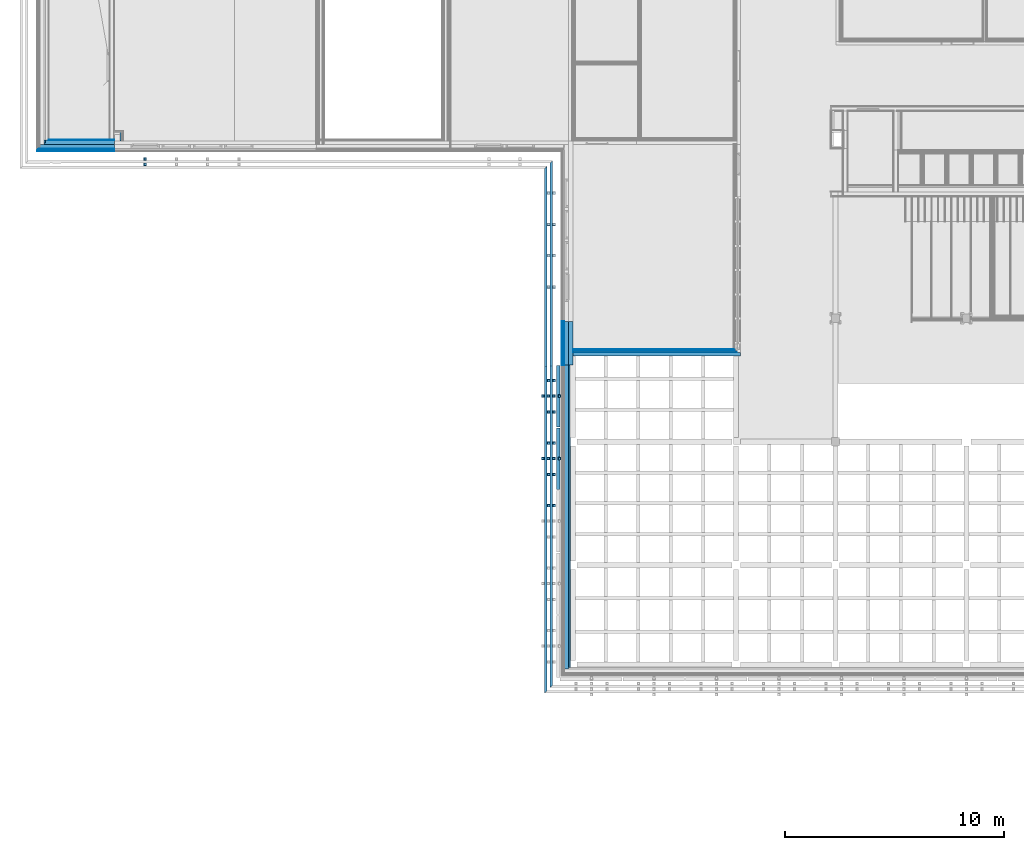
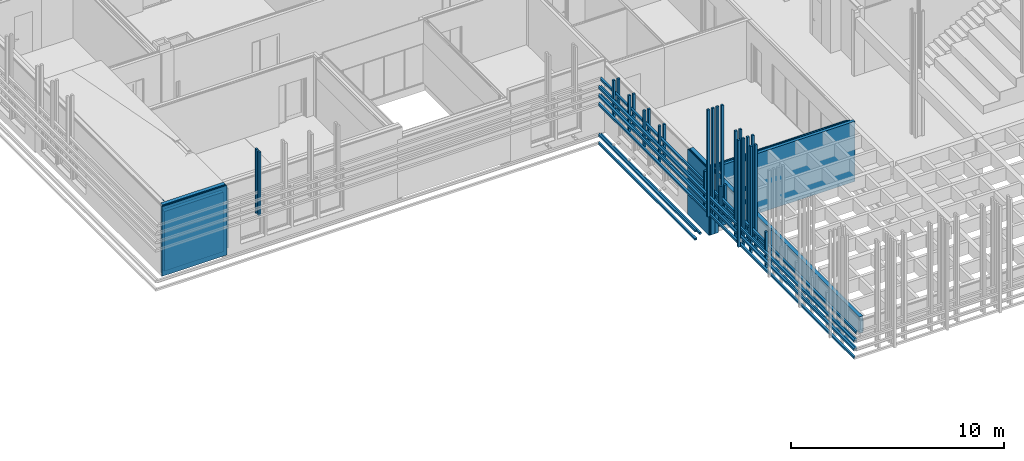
# One storey, part 79 of 139: 23 building element parts, 19 discrete accessories, 5 elements without a shape of their own.
"""IFC2X3 building model written with IfcOpenShell, lengths in millimetres."""

from ifc_helpers import new_model, entity, si_unit, converted_unit, derived_unit, money_unit, direction, frame, origin_with_axes, place, context, subcontext, project, spatial, faceted_brep, material, material_list, type_object, element, aggregate, save


model = new_model("IFC2X3")

# Units and contexts
model_context = context("Model", 3, precision=0.01, world=origin_with_axes(), true_north=direction((0.0, 1.0)))
body_context = subcontext(model_context, "Body", "Model", "MODEL_VIEW")
ifc_project = project(units=[si_unit("LENGTHUNIT", "METRE", prefix="MILLI"), si_unit("AREAUNIT", "SQUARE_METRE"), si_unit("VOLUMEUNIT", "CUBIC_METRE"), converted_unit("PLANEANGLEUNIT", "DEGREE", entity("IfcPlaneAngleMeasure", 0.0174532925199), si_unit("PLANEANGLEUNIT", "RADIAN"), dimensions=[0, 0, 0, 0, 0, 0, 0]), money_unit("EUR"), converted_unit("TIMEUNIT", "Year", entity("IfcTimeMeasure", 31556926.0), si_unit("TIMEUNIT", "SECOND"), dimensions=[0, 0, 1, 0, 0, 0, 0]), si_unit("MASSUNIT", "GRAM", prefix="KILO"), si_unit("THERMODYNAMICTEMPERATUREUNIT", "DEGREE_CELSIUS"), si_unit("LUMINOUSINTENSITYUNIT", "LUMEN"), si_unit("ENERGYUNIT", "JOULE", prefix="MEGA"), derived_unit("THERMALCONDUCTANCEUNIT", [(si_unit("POWERUNIT", "WATT"), 1), (si_unit("LENGTHUNIT", "METRE"), -1), (si_unit("THERMODYNAMICTEMPERATUREUNIT", "KELVIN"), -1)]), derived_unit("SPECIFICHEATCAPACITYUNIT", [(si_unit("ENERGYUNIT", "JOULE"), 1), (si_unit("MASSUNIT", "GRAM", prefix="KILO"), -1), (si_unit("THERMODYNAMICTEMPERATUREUNIT", "KELVIN"), -1)]), derived_unit("MASSDENSITYUNIT", [(si_unit("MASSUNIT", "GRAM", prefix="KILO"), 1), (si_unit("VOLUMEUNIT", "CUBIC_METRE"), -1)])], contexts=[model_context])

# Site, building, storey
site_placement = place(None, origin_with_axes())
site = spatial("IfcSite", under=ifc_project, at=site_placement, Name="Kolde pst 67a", CompositionType="ELEMENT")
building_placement = place(site_placement, origin_with_axes())
building = spatial("IfcBuilding", under=site, at=building_placement, Name="Riigigümnaasium", CompositionType="ELEMENT")
storey_placement = place(building_placement, frame((0.0, 0.0, 4600.0), z_axis=(0.0, 0.0, 1.0), x_axis=(1.0, 0.0, 0.0)))
storey = spatial("IfcBuildingStorey", under=building, at=storey_placement, Name="2. korrus", CompositionType="ELEMENT", Elevation=4600.0)

# Discrete accessories
ifc_material_1 = material(Name="_VÄLISVIIMISTLUS - sõrmjätkatud puitprussid 120x115mm, liitekohad vähemärgatavad, Platowood sõrmjätkatud kuusk või samaväärne; eeltöödeldud tuletõkkevõõbaga, tuletundlikkus B-s1, d0, Woodsafe Exterior WFX™ või samaväärne; kinnitused vastavalt EK osale")
ifc_material_list_1 = material_list([ifc_material_1, ifc_material_1, ifc_material_1, ifc_material_1])
discrete_accessory_type_1 = type_object("IfcDiscreteAccessoryType", Name="120 4-ne vertikaalne 870 x 115")
discrete_accessory_1_placement = place(storey_placement, frame((23688.0028833, 33673.0018504, 2150.0), z_axis=(0.0, 0.0, 1.0), x_axis=(0.999999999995, 3.13999128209e-06, 0.0)))
element("IfcDiscreteAccessory", 1, at=discrete_accessory_1_placement, inside=storey, type_object=discrete_accessory_type_1, material=ifc_material_list_1, Name="Päikesevarjestus", context=body_context, shape_type="Brep", body=[
    faceted_brep([(-47.4889259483, 45.0, 0.0), (-47.4889259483, 45.0, 519.999999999), (-47.4889259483, 45.0, 669.999999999), (-133.0, 45.0, 669.999999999), (-133.0, 45.0, 6130.0), (-13.0, 45.0, 6130.0), (-13.0, 45.0, 0.0), (-47.4892870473, -70.0, 519.999999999), (-47.4892870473, -70.0, 0.0), (-47.4892870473, -70.0, 669.999999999), (-133.0, -70.0, 669.999999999), (-133.0, -70.0, 6130.0), (-13.0, -70.0, 6130.0), (-13.0, -70.0, 0.0)], [[[0, 1, 2, 3, 4, 5, 6]], [[7, 1, 0, 8]], [[1, 7, 9, 2]], [[10, 3, 2, 9]], [[4, 3, 10, 11]], [[5, 4, 11, 12]], [[5, 12, 13, 6]], [[8, 0, 6, 13]], [[7, 8, 13, 12, 11, 10, 9]]]),
    faceted_brep([(-383.0, -70.0, 0.0), (-263.0, -70.0, 0.0), (-263.0, -70.0, 6130.0), (-383.0, -70.0, 6130.0), (-383.0, 45.0, 0.0), (-263.0, 45.0, 0.0), (-263.0, 45.0, 6130.0), (-383.0, 45.0, 6130.0)], [[[0, 1, 2, 3]], [[0, 4, 5, 1]], [[1, 5, 6, 2]], [[3, 2, 6, 7]], [[4, 0, 3, 7]], [[5, 4, 7, 6]]]),
    faceted_brep([(-633.0, -70.0, 0.0), (-513.0, -70.0, 0.0), (-513.0, -70.0, 6130.0), (-633.0, -70.0, 6130.0), (-633.0, 45.0, 0.0), (-513.0, 45.0, 0.0), (-513.0, 45.0, 6130.0), (-633.0, 45.0, 6130.0)], [[[0, 1, 2, 3]], [[0, 4, 5, 1]], [[1, 5, 6, 2]], [[3, 2, 6, 7]], [[4, 0, 3, 7]], [[5, 4, 7, 6]]]),
    faceted_brep([(-883.0, -70.0, 0.0), (-763.0, -70.0, 0.0), (-763.0, -70.0, 6130.0), (-883.0, -70.0, 6130.0), (-883.0, 45.0, 0.0), (-763.0, 45.0, 0.0), (-763.0, 45.0, 6130.0), (-883.0, 45.0, 6130.0)], [[[0, 1, 2, 3]], [[0, 4, 5, 1]], [[1, 5, 6, 2]], [[3, 2, 6, 7]], [[4, 0, 3, 7]], [[5, 4, 7, 6]]]),
])
discrete_accessory_2_placement = place(storey_placement, frame((23688.0028833, 36533.0022901, 2150.0), z_axis=(0.0, 0.0, 1.0), x_axis=(0.999999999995, 3.13999128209e-06, 0.0)))
element("IfcDiscreteAccessory", 2, at=discrete_accessory_2_placement, inside=storey, type_object=discrete_accessory_type_1, material=ifc_material_list_1, Name="Päikesevarjestus", context=body_context, shape_type="Brep", body=[
    faceted_brep([(-47.8588262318, 45.0, 0.0), (-47.8588262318, 45.0, 519.999999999), (-47.8588262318, 45.0, 669.999999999), (-133.0, 45.0, 669.999999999), (-133.0, 45.0, 6130.0), (-13.0, 45.0, 6130.0), (-13.0, 45.0, 0.0), (-47.8591873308, -70.0, 519.999999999), (-47.8591873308, -70.0, 0.0), (-47.8591873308, -70.0, 669.999999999), (-133.0, -70.0, 669.999999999), (-133.0, -70.0, 6130.0), (-13.0, -70.0, 6130.0), (-13.0, -70.0, 0.0)], [[[0, 1, 2, 3, 4, 5, 6]], [[7, 1, 0, 8]], [[1, 7, 9, 2]], [[10, 3, 2, 9]], [[4, 3, 10, 11]], [[5, 4, 11, 12]], [[5, 12, 13, 6]], [[8, 0, 6, 13]], [[7, 8, 13, 12, 11, 10, 9]]]),
    faceted_brep([(-383.0, -70.0, 0.0), (-263.0, -70.0, 0.0), (-263.0, -70.0, 6130.0), (-383.0, -70.0, 6130.0), (-383.0, 45.0, 0.0), (-263.0, 45.0, 0.0), (-263.0, 45.0, 6130.0), (-383.0, 45.0, 6130.0)], [[[0, 1, 2, 3]], [[0, 4, 5, 1]], [[1, 5, 6, 2]], [[3, 2, 6, 7]], [[4, 0, 3, 7]], [[5, 4, 7, 6]]]),
    faceted_brep([(-633.0, -70.0, 0.0), (-513.0, -70.0, 0.0), (-513.0, -70.0, 6130.0), (-633.0, -70.0, 6130.0), (-633.0, 45.0, 0.0), (-513.0, 45.0, 0.0), (-513.0, 45.0, 6130.0), (-633.0, 45.0, 6130.0)], [[[0, 1, 2, 3]], [[0, 4, 5, 1]], [[1, 5, 6, 2]], [[3, 2, 6, 7]], [[4, 0, 3, 7]], [[5, 4, 7, 6]]]),
    faceted_brep([(-883.0, -70.0, 0.0), (-763.0, -70.0, 0.0), (-763.0, -70.0, 6130.0), (-883.0, -70.0, 6130.0), (-883.0, 45.0, 0.0), (-763.0, 45.0, 0.0), (-763.0, 45.0, 6130.0), (-883.0, 45.0, 6130.0)], [[[0, 1, 2, 3]], [[0, 4, 5, 1]], [[1, 5, 6, 2]], [[3, 2, 6, 7]], [[4, 0, 3, 7]], [[5, 4, 7, 6]]]),
])
ifc_material_list_2 = material_list([ifc_material_1, ifc_material_1])
discrete_accessory_type_2 = type_object("IfcDiscreteAccessoryType", Name="1+paiksekaitse 4 tk nihkes 2 370 x 355")
for number, where, z_axis, x_axis in (
    (3, (23675.0058924, 47681.0480444, 2630.0), (0.0, 0.0, 1.0), (-1.0, 0.0, 0.0)),
    (4, (23675.0058924, 47681.0480444, 3110.0), (0.0, 0.0, 1.0), (-1.0, 0.0, 0.0)),
):
    element("IfcDiscreteAccessory", number, at=place(storey_placement, frame(where, z_axis=z_axis, x_axis=x_axis)), inside=storey, type_object=discrete_accessory_type_2, material=ifc_material_list_2, Name="Päikesevarjestus", context=body_context, shape_type="Brep", body=[
        faceted_brep([(375.0, 24381.0480717, 347.001360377), (375.0, 375.114637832, 347.001360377), (495.0, 495.151321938, 357.5), (495.0, 24501.0480717, 357.5), (375.0, 24381.0480717, 242.5), (375.0, 375.114637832, 242.5), (495.0, 495.151321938, 242.5), (495.0, 24501.0480717, 242.5)], [[[0, 1, 2, 3]], [[4, 5, 1, 0]], [[5, 6, 2, 1]], [[3, 2, 6, 7]], [[4, 0, 3, 7]], [[7, 6, 5, 4]]]),
        faceted_brep([(625.0, 24631.0480717, 107.001360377), (625.0, 625.191063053, 107.001360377), (745.0, 745.227747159, 117.5), (745.0, 24751.0480717, 117.5), (625.0, 24631.0480717, 2.5), (625.0, 625.191063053, 2.5), (745.0, 745.227747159, 2.5), (745.0, 24751.0480717, 2.5)], [[[0, 1, 2, 3]], [[4, 5, 1, 0]], [[5, 6, 2, 1]], [[3, 2, 6, 7]], [[4, 0, 3, 7]], [[7, 6, 5, 4]]]),
    ])
discrete_accessory_3_placement = place(storey_placement, frame((23675.0058924, 47681.0480444, -100.0), z_axis=(0.0, 0.0, 1.0), x_axis=(-0.999999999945, -1.04675018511e-05, 0.0)))
element("IfcDiscreteAccessory", 5, at=discrete_accessory_3_placement, inside=storey, type_object=discrete_accessory_type_2, material=ifc_material_list_2, Name="Päikesevarjestus", context=body_context, shape_type="Brep", body=[
    faceted_brep([(375.0, 9788.05164257, 347.001360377), (375.0, 375.110711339, 347.001360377), (495.0, 495.146138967, 357.5), (495.0, 9788.05164257, 357.5), (375.0, 9788.05164257, 242.5), (375.0, 375.110711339, 242.5), (495.0, 495.146138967, 242.5), (495.0, 9788.05164257, 242.5)], [[[0, 1, 2, 3]], [[4, 5, 1, 0]], [[5, 6, 2, 1]], [[3, 2, 6, 7]], [[4, 0, 3, 7]], [[7, 6, 5, 4]]]),
    faceted_brep([(625.0, 9788.05164257, 107.001360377), (625.0, 625.184518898, 107.001360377), (745.0, 745.219946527, 117.5), (745.0, 9788.05164257, 117.5), (625.0, 9788.05164257, 2.5), (625.0, 625.184518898, 2.5), (745.0, 745.219946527, 2.5), (745.0, 9788.05164257, 2.5)], [[[0, 1, 2, 3]], [[4, 5, 1, 0]], [[5, 6, 2, 1]], [[3, 2, 6, 7]], [[4, 0, 3, 7]], [[7, 6, 5, 4]]]),
])
discrete_accessory_4_placement = place(storey_placement, frame((23675.0058924, 47681.0480444, 2150.0), z_axis=(0.0, 0.0, 1.0), x_axis=(-1.0, 0.0, 0.0)))
element("IfcDiscreteAccessory", 6, at=discrete_accessory_4_placement, inside=storey, type_object=discrete_accessory_type_2, material=ifc_material_list_2, Name="Päikesevarjestus", context=body_context, shape_type="Brep", body=[
    faceted_brep([(375.0, 24381.0480717, 347.001360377), (375.0, 375.114637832, 347.001360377), (495.0, 495.151321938, 357.5), (495.0, 24501.0480717, 357.5), (375.0, 24381.0480717, 242.5), (375.0, 375.114637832, 242.5), (495.0, 495.151321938, 242.5), (495.0, 24501.0480717, 242.5)], [[[0, 1, 2, 3]], [[4, 5, 1, 0]], [[5, 6, 2, 1]], [[3, 2, 6, 7]], [[4, 0, 3, 7]], [[7, 6, 5, 4]]]),
    faceted_brep([(625.0, 24631.0480717, 107.001360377), (625.0, 625.191063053, 107.001360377), (745.0, 745.227747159, 117.5), (745.0, 24751.0480717, 117.5), (625.0, 24631.0480717, 2.5), (625.0, 625.191063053, 2.5), (745.0, 745.227747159, 2.5), (745.0, 24751.0480717, 2.5)], [[[0, 1, 2, 3]], [[4, 5, 1, 0]], [[5, 6, 2, 1]], [[3, 2, 6, 7]], [[4, 0, 3, 7]], [[7, 6, 5, 4]]]),
])
discrete_accessory_type_3 = type_object("IfcDiscreteAccessoryType", Name="1+paiksekaitse 3 370 x 115")
discrete_accessory_5_placement = place(storey_placement, frame((4714.9643617, 46713.6768307, 2150.0), z_axis=(0.0, 0.0, 1.0), x_axis=(0.0, 1.0, 0.0)))
element("IfcDiscreteAccessory", 7, at=discrete_accessory_5_placement, inside=storey, type_object=discrete_accessory_type_3, material=ifc_material_list_2, Name="Päikesevarjestus", context=body_context, shape_type="Brep", body=[
    faceted_brep([(467.0, 117.5, 0.0), (347.0, 117.5, 0.0), (347.0, 117.5, 3670.0), (467.0, 117.5, 3670.0), (467.0, 2.5, 0.0), (347.0, 2.5, 0.0), (347.0, 2.5, 3670.0), (467.0, 2.5, 3670.0)], [[[0, 1, 2, 3]], [[0, 4, 5, 1]], [[1, 5, 6, 2]], [[3, 2, 6, 7]], [[4, 0, 3, 7]], [[5, 4, 7, 6]]]),
    faceted_brep([(717.0, 117.5, 0.0), (597.0, 117.5, 0.0), (597.0, 117.5, 3670.0), (717.0, 117.5, 3670.0), (717.0, 2.5, 0.0), (597.0, 2.5, 0.0), (597.0, 2.5, 3670.0), (717.0, 2.5, 3670.0)], [[[0, 1, 2, 3]], [[0, 4, 5, 1]], [[1, 5, 6, 2]], [[3, 2, 6, 7]], [[4, 0, 3, 7]], [[5, 4, 7, 6]]]),
])
for number, where, z_axis, x_axis in (
    (8, (22708.1079799, 44325.0016786, 2150.0), (0.0, 0.0, 1.0), (1.0, 0.0, 0.0)),
    (9, (22708.1079799, 42895.2789391, 2150.0), (0.0, 0.0, 1.0), (1.0, 0.0, 0.0)),
    (10, (22708.1079799, 41465.0016786, 2150.0), (0.0, 0.0, 1.0), (1.0, 0.0, 0.0)),
    (11, (22708.1079799, 45755.2789391, 2150.0), (0.0, 0.0, 1.0), (1.0, 0.0, 0.0)),
):
    element("IfcDiscreteAccessory", number, at=place(storey_placement, frame(where, z_axis=z_axis, x_axis=x_axis)), inside=storey, type_object=discrete_accessory_type_3, material=ifc_material_list_2, Name="Päikesevarjestus", context=body_context, shape_type="Brep", body=[
        faceted_brep([(467.0, 117.5, 0.0), (347.0, 117.5, 0.0), (347.0, 117.5, 2090.0), (467.0, 117.5, 2090.0), (467.0, 2.5, 0.0), (347.0, 2.5, 0.0), (347.0, 2.5, 2090.0), (467.0, 2.5, 2090.0)], [[[0, 1, 2, 3]], [[0, 4, 5, 1]], [[1, 5, 6, 2]], [[3, 2, 6, 7]], [[4, 0, 3, 7]], [[5, 4, 7, 6]]]),
        faceted_brep([(717.0, 117.5, 0.0), (597.0, 117.5, 0.0), (597.0, 117.5, 2090.0), (717.0, 117.5, 2090.0), (717.0, 2.5, 0.0), (597.0, 2.5, 0.0), (597.0, 2.5, 2090.0), (717.0, 2.5, 2090.0)], [[[0, 1, 2, 3]], [[0, 4, 5, 1]], [[1, 5, 6, 2]], [[3, 2, 6, 7]], [[4, 0, 3, 7]], [[5, 4, 7, 6]]]),
    ])
for number, where, z_axis, x_axis in (
    (12, (22708.1079799, 34315.498544, 2150.0), (0.0, 0.0, 1.0), (1.0, 0.0, 0.0)),
    (13, (22708.1079799, 32885.498544, 2150.0), (0.0, 0.0, 1.0), (1.0, 0.0, 0.0)),
):
    element("IfcDiscreteAccessory", number, at=place(storey_placement, frame(where, z_axis=z_axis, x_axis=x_axis)), inside=storey, type_object=discrete_accessory_type_3, material=ifc_material_list_2, Name="Päikesevarjestus", context=body_context, shape_type="Brep", body=[
        faceted_brep([(467.0, 117.5, 0.0), (347.0, 117.5, 0.0), (347.0, 117.5, 6130.0), (467.0, 117.5, 6130.0), (467.0, 2.5, 0.0), (347.0, 2.5, 0.0), (347.0, 2.5, 6130.0), (467.0, 2.5, 6130.0)], [[[0, 1, 2, 3]], [[0, 4, 5, 1]], [[1, 5, 6, 2]], [[3, 2, 6, 7]], [[4, 0, 3, 7]], [[5, 4, 7, 6]]]),
        faceted_brep([(717.0, 117.5, 0.0), (597.0, 117.5, 0.0), (597.0, 117.5, 6130.0), (717.0, 117.5, 6130.0), (717.0, 2.5, 0.0), (597.0, 2.5, 0.0), (597.0, 2.5, 6130.0), (717.0, 2.5, 6130.0)], [[[0, 1, 2, 3]], [[0, 4, 5, 1]], [[1, 5, 6, 2]], [[3, 2, 6, 7]], [[4, 0, 3, 7]], [[5, 4, 7, 6]]]),
    ])
for number, where, z_axis, x_axis in (
    (14, (22708.1079799, 35747.498544, 2150.0), (0.0, 0.0, 1.0), (1.0, 0.0, 0.0)),
    (15, (22708.1079799, 37177.498544, 2150.0), (0.0, 0.0, 1.0), (1.0, 0.0, 0.0)),
    (16, (22708.1079799, 31455.498544, 2150.0), (0.0, 0.0, 1.0), (1.0, 0.0, 0.0)),
):
    element("IfcDiscreteAccessory", number, at=place(storey_placement, frame(where, z_axis=z_axis, x_axis=x_axis)), inside=storey, type_object=discrete_accessory_type_3, material=ifc_material_list_2, Name="Päikesevarjestus", context=body_context, shape_type="Brep", body=[
        faceted_brep([(467.0, 117.5, 0.0), (347.0, 117.5, 0.0), (347.0, 117.5, 2090.0), (467.0, 117.5, 2090.0), (467.0, 2.5, 0.0), (347.0, 2.5, 0.0), (347.0, 2.5, 2090.0), (467.0, 2.5, 2090.0)], [[[0, 1, 2, 3]], [[0, 4, 5, 1]], [[1, 5, 6, 2]], [[3, 2, 6, 7]], [[4, 0, 3, 7]], [[5, 4, 7, 6]]]),
        faceted_brep([(717.0, 117.5, 0.0), (597.0, 117.5, 0.0), (597.0, 117.5, 2090.0), (717.0, 117.5, 2090.0), (717.0, 2.5, 0.0), (597.0, 2.5, 0.0), (597.0, 2.5, 2090.0), (717.0, 2.5, 2090.0)], [[[0, 1, 2, 3]], [[0, 4, 5, 1]], [[1, 5, 6, 2]], [[3, 2, 6, 7]], [[4, 0, 3, 7]], [[5, 4, 7, 6]]]),
    ])
discrete_accessory_type_4 = type_object("IfcDiscreteAccessoryType", Name="1+paiksekaitse 4 tk nihkes 1 120 x 115")
discrete_accessory_6_placement = place(storey_placement, frame((23675.0058924, 47681.0479235, 380.0), z_axis=(0.0, 0.0, 1.0), x_axis=(-1.0, 0.0, 0.0)))
element("IfcDiscreteAccessory", 17, at=discrete_accessory_6_placement, inside=storey, type_object=discrete_accessory_type_4, material=ifc_material_1, Name="Päikesevarjestus", context=body_context, shape_type="Brep", body=[
    faceted_brep([(745.0, 9803.5463432, 117.5), (625.0, 9803.5463432, 107.001360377), (625.0, 625.190993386, 107.001360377), (745.0, 745.227664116, 117.5), (745.0, 9803.5463432, 2.5), (625.0, 9803.5463432, 2.5), (625.0, 625.190993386, 2.5), (745.0, 745.227664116, 2.5)], [[[0, 1, 2, 3]], [[4, 5, 1, 0]], [[1, 5, 6, 2]], [[2, 6, 7, 3]], [[4, 0, 3, 7]], [[5, 4, 7, 6]]]),
])
ifc_material_2 = material(Name="_METALL - tsink")
discrete_accessory_type_5 = type_object("IfcDiscreteAccessoryType", Name="_METALL - tsink 155 x 150")
discrete_accessory_7_placement = place(storey_placement, frame((23563.0138161, 32252.9989187, 2745.0), z_axis=(0.0, 0.0, 1.0), x_axis=(1.0, 0.0, 0.0)))
element("IfcDiscreteAccessory", 18, at=discrete_accessory_7_placement, inside=storey, type_object=discrete_accessory_type_5, material=ifc_material_2, Name="Kardinvarjestus", context=body_context, shape_type="Brep", body=[
    faceted_brep([(77.5, 0.0, 75.0), (77.5, 2814.98529301, 75.0), (-77.5, 2814.98529301, 75.0), (-77.5, 0.0, 75.0), (77.5, 0.0, -75.0), (77.5, 2814.98529301, -75.0), (-77.5, 2814.98529301, -75.0), (-77.5, 0.0, -75.0)], [[[0, 1, 2, 3]], [[4, 5, 1, 0]], [[2, 1, 5, 6]], [[3, 2, 6, 7]], [[4, 0, 3, 7]], [[7, 6, 5, 4]]]),
])
discrete_accessory_8_placement = place(storey_placement, frame((23562.6439158, 35112.9962612, 2745.0), z_axis=(0.0, 0.0, 1.0), x_axis=(1.0, 0.0, 0.0)))
element("IfcDiscreteAccessory", 19, at=discrete_accessory_8_placement, inside=storey, type_object=discrete_accessory_type_5, material=ifc_material_2, Name="Kardinvarjestus", context=body_context, shape_type="Brep", body=[
    faceted_brep([(77.5, 0.0, 75.0), (77.5, 2814.9998744, 75.0), (-77.5, 2814.9998744, 75.0), (-77.5, 0.0, 75.0), (77.5, 0.0, -75.0), (77.5, 2814.9998744, -75.0), (-77.5, 2814.9998744, -75.0), (-77.5, 0.0, -75.0)], [[[0, 1, 2, 3]], [[4, 5, 1, 0]], [[2, 1, 5, 6]], [[3, 2, 6, 7]], [[4, 0, 3, 7]], [[7, 6, 5, 4]]]),
])

# Wall, building element parts
wall_type_1 = type_object("IfcWallType", Name="SS-CLT-16/1_vill75+krohv 52 dB 300", PredefinedType="NOTDEFINED")
wall_1_placement = place(storey_placement, frame((31890.0027331, 38359.9808239, -130.0), z_axis=(0.0, 0.0, 1.0), x_axis=(-1.0, 1.13121481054e-09, 0.0)))
wall_1 = element("IfcWall", 20, at=wall_1_placement, inside=storey, type_object=wall_type_1, Name="Sisesein")
ifc_material_3 = material(Name="_KANDETARIND - CLT ristkihtliimpuit vastavalt EK osale, CLT paigaldusvuugid teibitakse ROTHOBLAAS teibiga")
building_element_part_1_placement = place(wall_1_placement, origin_with_axes())
building_element_part_1 = element("IfcBuildingElementPart", 21, at=building_element_part_1_placement, material=ifc_material_3, Name="_KANDETARIND - CLT ristkihtliimpuit vastavalt EK osale, CLT paigaldusvuugid teibitakse ROTHOBLAAS teibiga", context=body_context, shape_type="Brep", body=[
    faceted_brep([(1.8099655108e-07, -160.0, 3450.0), (1.8099655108e-07, -160.0, 0.0), (7649.99999913, -159.999991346, 0.0), (7649.99999913, -159.999991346, 3450.0), (0.0, 0.0, 3450.0), (0.0, 0.0, 0.0), (7649.99999895, 8.65379945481e-06, 0.0), (7649.99999895, 8.65379945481e-06, 3450.0), (160.000022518, 1.8099655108e-07, 3450.0)], [[[0, 1, 2, 3]], [[0, 4, 5, 1]], [[6, 2, 1, 5]], [[7, 3, 2, 6]], [[8, 4, 0, 3, 7]], [[4, 8, 7, 6, 5]]]),
])
ifc_material_4 = material(Name="_ÕHKVAHE")
building_element_part_2_placement = place(wall_1_placement, origin_with_axes())
building_element_part_2 = element("IfcBuildingElementPart", 22, at=building_element_part_2_placement, material=ifc_material_4, Name="_ÕHKVAHE", context=body_context, shape_type="Brep", body=[
    faceted_brep([(7649.99999915, -174.999991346, 3450.0), (160.000022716, -174.999999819, 3450.0), (160.000000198, -174.999999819, 127.0), (7649.99999915, -174.999991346, 127.0), (160.000022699, -159.999999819, 3450.0), (7649.99999913, -159.999991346, 3450.0), (160.000000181, -159.999999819, 127.0), (7649.99999913, -159.999991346, 127.0)], [[[0, 1, 2, 3]], [[4, 1, 0, 5]], [[1, 4, 6, 2]], [[2, 6, 7, 3]], [[5, 0, 3, 7]], [[4, 5, 7, 6]]]),
])
ifc_material_5 = material(Name="_KARKASS - metallkarkass CW 75/50/06 ja UW 75/40/06, samm 600, vahel mineraalvill, helineeldetegur αw = 1.0,  ISOVER ACOUSTIC 75mm või samaväärne")
building_element_part_3_placement = place(wall_1_placement, origin_with_axes())
building_element_part_3 = element("IfcBuildingElementPart", 23, at=building_element_part_3_placement, material=ifc_material_5, Name="_KARKASS - metallkarkass CW 75/50/06 ja UW 75/40/06, samm 600, vahel mineraalvill, helineeldetegur αw = 1.0,  ISOVER ACOUSTIC 75mm või samaväärne", context=body_context, shape_type="Brep", body=[
    faceted_brep([(7649.99999924, -249.999991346, 3450.0), (175.000000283, -249.999999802, 3450.0), (175.000000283, -249.999999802, 127.0), (7649.99999924, -249.999991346, 127.0), (175.000000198, -174.999999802, 3450.0), (7649.99999915, -174.999991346, 3450.0), (175.000000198, -174.999999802, 127.0), (7649.99999915, -174.999991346, 127.0)], [[[0, 1, 2, 3]], [[4, 1, 0, 5]], [[1, 4, 6, 2]], [[2, 6, 7, 3]], [[5, 0, 3, 7]], [[4, 5, 7, 6]]]),
])
ifc_material_6 = material(Name="_PLAATMATERJAL - OSB3 plaat")
building_element_part_4_placement = place(wall_1_placement, origin_with_axes())
building_element_part_4 = element("IfcBuildingElementPart", 24, at=building_element_part_4_placement, material=ifc_material_6, Name="_PLAATMATERJAL - OSB3 plaat", context=body_context, shape_type="Brep", body=[
    faceted_brep([(7649.99999925, -259.999991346, 3450.0), (250.000000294, -259.999999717, 3450.0), (250.000000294, -259.999999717, 127.0), (7649.99999925, -259.999991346, 127.0), (250.000000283, -249.999999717, 3450.0), (7649.99999924, -249.999991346, 3450.0), (250.000000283, -249.999999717, 127.0), (7649.99999924, -249.999991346, 127.0)], [[[0, 1, 2, 3]], [[4, 1, 0, 5]], [[1, 4, 6, 2]], [[2, 6, 7, 3]], [[5, 0, 3, 7]], [[4, 5, 7, 6]]]),
])
ifc_material_7 = material(Name="_PLAATMATERJAL - tuletõkkekipsplaat, Knauf Red GKF või samaväärne")
building_element_part_5_placement = place(wall_1_placement, origin_with_axes())
building_element_part_5 = element("IfcBuildingElementPart", 25, at=building_element_part_5_placement, material=ifc_material_7, Name="_PLAATMATERJAL - tuletõkkekipsplaat, Knauf Red GKF või samaväärne", context=body_context, shape_type="Brep", body=[
    faceted_brep([(7649.99999926, -274.999991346, 3450.0), (260.000000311, -274.999999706, 3450.0), (260.000000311, -274.999999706, 127.0), (7649.99999926, -274.999991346, 127.0), (260.000000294, -259.999999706, 3450.0), (7649.99999925, -259.999991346, 3450.0), (260.000000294, -259.999999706, 127.0), (7649.99999925, -259.999991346, 127.0)], [[[0, 1, 2, 3]], [[4, 1, 0, 5]], [[1, 4, 6, 2]], [[2, 6, 7, 3]], [[5, 0, 3, 7]], [[4, 5, 7, 6]]]),
])
building_element_part_6_placement = place(wall_1_placement, origin_with_axes())
building_element_part_6 = element("IfcBuildingElementPart", 26, at=building_element_part_6_placement, material=ifc_material_7, Name="_PLAATMATERJAL - tuletõkkekipsplaat, Knauf Red GKF või samaväärne", context=body_context, shape_type="Brep", body=[
    faceted_brep([(7649.99999928, -289.999991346, 3450.0), (275.000000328, -289.999999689, 3450.0), (275.000000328, -289.999999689, 127.0), (7649.99999928, -289.999991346, 127.0), (275.000000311, -274.999999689, 3450.0), (7649.99999926, -274.999991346, 3450.0), (275.000000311, -274.999999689, 127.0), (7649.99999926, -274.999991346, 127.0)], [[[0, 1, 2, 3]], [[4, 1, 0, 5]], [[1, 4, 6, 2]], [[2, 6, 7, 3]], [[5, 0, 3, 7]], [[4, 5, 7, 6]]]),
])
ifc_material_8 = material(Name="_VIIMISTLUSKIHT - viimistlus vastavalt SA osale")
building_element_part_7_placement = place(wall_1_placement, origin_with_axes())
building_element_part_7 = element("IfcBuildingElementPart", 27, at=building_element_part_7_placement, material=ifc_material_8, Name="_VIIMISTLUSKIHT - viimistlus vastavalt SA osale", context=body_context, shape_type="Brep", body=[
    faceted_brep([(7649.99999929, -299.999991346, 3450.0), (290.000000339, -299.999999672, 3450.0), (290.000000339, -299.999999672, 130.0), (7649.99999929, -299.999991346, 130.0), (290.000000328, -289.999999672, 3450.0), (7649.99999928, -289.999991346, 3450.0), (290.000000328, -289.999999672, 130.0), (7649.99999928, -289.999991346, 130.0)], [[[0, 1, 2, 3]], [[4, 1, 0, 5]], [[1, 4, 6, 2]], [[2, 6, 7, 3]], [[5, 0, 3, 7]], [[4, 5, 7, 6]]]),
])
aggregate(wall_1, [building_element_part_1, building_element_part_2, building_element_part_3, building_element_part_4, building_element_part_5, building_element_part_6, building_element_part_7])

wall_type_2 = type_object("IfcWallType", Name="VS-RB-20/1_soojust 200+laudis 522", PredefinedType="NOTDEFINED")
wall_2_placement = place(storey_placement, frame((40.0563582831, 48039.9808318, 0.0), z_axis=(0.0, 0.0, 1.0), x_axis=(1.0, -3.07472468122e-10, 0.0)))
wall_2 = element("IfcWall", 28, at=wall_2_placement, inside=storey, type_object=wall_type_2, Name="Välissein")
building_element_part_8_placement = place(wall_2_placement, origin_with_axes())
building_element_part_8 = element("IfcBuildingElementPart", 29, at=building_element_part_8_placement, material=ifc_material_8, Name="_VIIMISTLUSKIHT - viimistlus vastavalt SA osale", context=body_context, shape_type="Brep", body=[
    faceted_brep([(199.999999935, 210.000000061, 3420.0), (3209.88403094, 210.000000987, 3420.0), (3209.884031, 210.000000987, 0.0), (199.999999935, 210.000000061, 0.0), (3209.88403094, 200.000000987, 3420.0), (199.999999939, 200.000000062, 3420.0), (3209.88403101, 200.000000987, 0.0), (199.999999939, 200.000000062, 0.0)], [[[0, 1, 2, 3]], [[4, 1, 0, 5]], [[1, 4, 6, 2]], [[3, 2, 6, 7]], [[5, 0, 3, 7]], [[4, 5, 7, 6]]]),
])
ifc_material_9 = material(Name="_KANDETARIND - monteeritav raudbetoon vastavalt EK osale")
building_element_part_9_placement = place(wall_2_placement, origin_with_axes())
building_element_part_9 = element("IfcBuildingElementPart", 30, at=building_element_part_9_placement, material=ifc_material_9, Name="_KANDETARIND - monteeritav raudbetoon vastavalt EK osale", context=body_context, shape_type="Brep", body=[
    faceted_brep([(2.58618350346e-06, 70.0000000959, 3990.99999866), (52.9999999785, 70.0000001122, 3990.99999866), (52.9999999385, 200.000000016, 3990.99999867), (-6.14944137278e-08, 200.0, 3991.0), (2.58618350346e-06, 70.0000000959, 3970.0), (52.9999999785, 70.0000001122, 3970.0), (52.9999999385, 200.000000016, 3970.0), (2.54621208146e-06, 200.0, 3970.0)], [[[0, 1, 2, 3]], [[1, 0, 4, 5]], [[6, 2, 1, 5]], [[6, 7, 3, 2]], [[4, 0, 3, 7]], [[7, 6, 5, 4]]]),
    faceted_brep([(-6.14944137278e-08, 200.0, 3420.0), (3209.88403094, 200.000000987, 3420.0), (3209.88403094, 200.000000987, 0.0), (-6.14944137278e-08, 200.0, 0.0), (3209.88403101, 0.0, 3420.0), (0.0, -9.86950965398e-07, 3420.0), (3209.88403101, 9.86950965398e-07, 0.0), (0.0, 0.0, 0.0)], [[[0, 1, 2, 3]], [[4, 1, 0, 5]], [[1, 4, 6, 2]], [[3, 2, 6, 7]], [[5, 0, 3, 7]], [[4, 5, 7, 6]]]),
])
ifc_material_10 = material(Name="_SOOJUSTUS - mineraalvill, λD<0,032 W/(mK), kuumtsingitud lehtteras termoroovidega, S350GD+Zn275 vastavalt EN10346, ISOVER EXTREME 32 200mm või samaväärne")
building_element_part_10_placement = place(wall_2_placement, origin_with_axes())
building_element_part_10 = element("IfcBuildingElementPart", 31, at=building_element_part_10_placement, material=ifc_material_10, Name="_SOOJUSTUS - mineraalvill, λD<0,032 W/(mK), kuumtsingitud lehtteras termoroovidega, S350GD+Zn275 vastavalt EN10346, ISOVER EXTREME 32 200mm või samaväärne", context=body_context, shape_type="Brep", body=[
    faceted_brep([(-200.0, -6.14903683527e-08, 0.0), (3209.88403094, 9.86950965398e-07, 0.0), (3209.88403101, -199.999999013, 0.0), (-199.999999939, -200.000000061, 0.0), (-200.0, -6.14903683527e-08, 3991.0), (3209.88403094, 9.86950965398e-07, 3991.0), (3209.88403101, -199.999999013, 3991.0), (-199.999999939, -200.000000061, 3991.0)], [[[0, 1, 2, 3]], [[4, 5, 1, 0]], [[2, 1, 5, 6]], [[3, 2, 6, 7]], [[4, 0, 3, 7]], [[7, 6, 5, 4]]]),
])
ifc_material_11 = material(Name="_TUULETÕKE - tuuletõkkeplaat, soojuserijuhtivus λD<0,031 W/(mK), ISOVER RKL FACADE või samaväärne, liitekohad katta tihendusteibiga ISOVER FacadeTape või samaväärne")
building_element_part_11_placement = place(wall_2_placement, origin_with_axes())
building_element_part_11 = element("IfcBuildingElementPart", 32, at=building_element_part_11_placement, material=ifc_material_11, Name="_TUULETÕKE - tuuletõkkeplaat, soojuserijuhtivus λD<0,031 W/(mK), ISOVER RKL FACADE või samaväärne, liitekohad katta tihendusteibiga ISOVER FacadeTape või samaväärne", context=body_context, shape_type="Brep", body=[
    faceted_brep([(3209.884031, -199.999999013, 0.0), (3209.88403101, -229.999999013, 0.0), (-229.999999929, -230.000000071, 0.0), (-229.999999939, -200.000000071, 0.0), (3209.884031, -199.999999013, 3991.0), (3209.88403101, -229.999999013, 3991.0), (-229.999999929, -230.000000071, 3991.0), (-229.999999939, -200.000000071, 3991.0)], [[[0, 1, 2, 3]], [[0, 4, 5, 1]], [[1, 5, 6, 2]], [[3, 2, 6, 7]], [[4, 0, 3, 7]], [[5, 4, 7, 6]]]),
])
ifc_material_12 = material(Name="_KARKASS - puitroov 32x50mm vertikaalne, immutatud Driconi tulekaitsevahendiga või samaväärne, samm 600mm")
building_element_part_12_placement = place(wall_2_placement, origin_with_axes())
building_element_part_12 = element("IfcBuildingElementPart", 33, at=building_element_part_12_placement, material=ifc_material_12, Name="_KARKASS - puitroov 32x50mm vertikaalne, immutatud Driconi tulekaitsevahendiga või samaväärne, samm 600mm", context=body_context, shape_type="Brep", body=[
    faceted_brep([(3209.884031, -229.999999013, 0.0), (3209.88403101, -261.999999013, 0.0), (-261.999999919, -262.000000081, 0.0), (-261.999999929, -230.000000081, 0.0), (3209.884031, -229.999999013, 3991.0), (3209.88403101, -261.999999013, 3991.0), (-261.999999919, -262.000000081, 3991.0), (-261.999999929, -230.000000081, 3991.0)], [[[0, 1, 2, 3]], [[0, 4, 5, 1]], [[1, 5, 6, 2]], [[3, 2, 6, 7]], [[4, 0, 3, 7]], [[5, 4, 7, 6]]]),
])
ifc_material_13 = material(Name="_KARKASS - puitroov 32x50mm horisontaalne, immutatud Driconi tulekaitsevahendiga või samaväärne, samm 600mm")
building_element_part_13_placement = place(wall_2_placement, origin_with_axes())
building_element_part_13 = element("IfcBuildingElementPart", 34, at=building_element_part_13_placement, material=ifc_material_13, Name="_KARKASS - puitroov 32x50mm horisontaalne, immutatud Driconi tulekaitsevahendiga või samaväärne, samm 600mm", context=body_context, shape_type="Brep", body=[
    faceted_brep([(3209.884031, -261.999999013, 0.0), (3209.88403101, -293.999999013, 0.0), (-293.99999991, -294.00000009, 0.0), (-293.999999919, -262.00000009, 0.0), (3209.884031, -261.999999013, 3991.0), (3209.88403101, -293.999999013, 3991.0), (-293.99999991, -294.00000009, 3991.0), (-293.999999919, -262.00000009, 3991.0)], [[[0, 1, 2, 3]], [[0, 4, 5, 1]], [[1, 5, 6, 2]], [[3, 2, 6, 7]], [[4, 0, 3, 7]], [[5, 4, 7, 6]]]),
])
ifc_material_14 = material(Name="_VÄLISVIIMISTLUS - vertikaalne voodrilaud, Platowood P01 profiil 18x140mm, kuusk; eeltöödeldud tuletõkkega mõlemad küljed, B-s1, d0, Woodsafe Exterior WFX™ või samaväärne")
building_element_part_14_placement = place(wall_2_placement, origin_with_axes())
building_element_part_14 = element("IfcBuildingElementPart", 35, at=building_element_part_14_placement, material=ifc_material_14, Name="_VÄLISVIIMISTLUS - vertikaalne voodrilaud, Platowood P01 profiil 18x140mm, kuusk; eeltöödeldud tuletõkkega mõlemad küljed, B-s1, d0, Woodsafe Exterior WFX™ või samaväärne", context=body_context, shape_type="Brep", body=[
    faceted_brep([(3209.884031, -293.999999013, 0.0), (3209.88403101, -311.999999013, 0.0), (-311.999999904, -312.000000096, 0.0), (-311.99999991, -294.000000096, 0.0), (3209.884031, -293.999999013, 3991.0), (3209.88403101, -311.999999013, 3991.0), (-311.999999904, -312.000000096, 3991.0), (-311.99999991, -294.000000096, 3991.0)], [[[0, 1, 2, 3]], [[0, 4, 5, 1]], [[1, 5, 6, 2]], [[3, 2, 6, 7]], [[4, 0, 3, 7]], [[5, 4, 7, 6]]]),
])
aggregate(wall_2, [building_element_part_8, building_element_part_9, building_element_part_10, building_element_part_11, building_element_part_12, building_element_part_13, building_element_part_14])

wall_type_3 = type_object("IfcWallType", Name="VS-CLT-20/1 512", PredefinedType="NOTDEFINED")
wall_3_placement = place(storey_placement, frame((24040.0027342, 39944.999954, -130.0), z_axis=(0.0, 0.0, 1.0), x_axis=(0.0, -1.0, 0.0)))
wall_3 = element("IfcWall", 36, at=wall_3_placement, inside=storey, type_object=wall_type_3, Name="Välissein")
building_element_part_15_placement = place(wall_3_placement, origin_with_axes())
building_element_part_15 = element("IfcBuildingElementPart", 37, at=building_element_part_15_placement, material=ifc_material_3, Name="_KANDETARIND - CLT ristkihtliimpuit vastavalt EK osale, CLT paigaldusvuugid teibitakse ROTHOBLAAS teibiga", context=body_context, shape_type="Brep", body=[
    faceted_brep([(0.0, 0.0, 3450.0), (0.0, 200.0, 3450.0), (0.0, 200.0, 0.0), (0.0, 0.0, 0.0), (2007.50332785, 0.0, 3450.0), (2007.50332785, 200.0, 3450.0), (2007.50332785, 200.0, 0.0), (2007.50332785, 0.0, 0.0)], [[[0, 1, 2, 3]], [[1, 0, 4, 5]], [[1, 5, 6, 2]], [[2, 6, 7, 3]], [[0, 3, 7, 4]], [[5, 4, 7, 6]]]),
])
building_element_part_16_placement = place(wall_3_placement, origin_with_axes())
building_element_part_16 = element("IfcBuildingElementPart", 38, at=building_element_part_16_placement, material=ifc_material_10, Name="_SOOJUSTUS - mineraalvill, λD<0,032 W/(mK), kuumtsingitud lehtteras termoroovidega, S350GD+Zn275 vastavalt EN10346, ISOVER EXTREME 32 200mm või samaväärne", context=body_context, shape_type="Brep", body=[
    faceted_brep([(0.0, 0.0, 0.0), (2007.50332785, 0.0, 0.0), (2007.50332785, -200.0, 0.0), (0.0, -200.0, 0.0), (0.0, 0.0, 3750.0), (2007.50332785, 0.0, 3750.0), (2007.50332785, -200.0, 3750.0), (0.0, -200.0, 3750.0)], [[[0, 1, 2, 3]], [[4, 5, 1, 0]], [[2, 1, 5, 6]], [[3, 2, 6, 7]], [[4, 0, 3, 7]], [[7, 6, 5, 4]]]),
])
building_element_part_17_placement = place(wall_3_placement, origin_with_axes())
building_element_part_17 = element("IfcBuildingElementPart", 39, at=building_element_part_17_placement, material=ifc_material_11, Name="_TUULETÕKE - tuuletõkkeplaat, soojuserijuhtivus λD<0,031 W/(mK), ISOVER RKL FACADE või samaväärne, liitekohad katta tihendusteibiga ISOVER FacadeTape või samaväärne", context=body_context, shape_type="Brep", body=[
    faceted_brep([(2007.50332785, -200.0, 0.0), (2007.50332785, -230.0, 0.0), (0.0, -230.0, 0.0), (0.0, -200.0, 0.0), (2007.50332785, -200.0, 3750.0), (2007.50332785, -230.0, 3750.0), (0.0, -230.0, 3750.0), (0.0, -200.0, 3750.0)], [[[0, 1, 2, 3]], [[0, 4, 5, 1]], [[1, 5, 6, 2]], [[3, 2, 6, 7]], [[4, 0, 3, 7]], [[5, 4, 7, 6]]]),
])
building_element_part_18_placement = place(wall_3_placement, origin_with_axes())
building_element_part_18 = element("IfcBuildingElementPart", 40, at=building_element_part_18_placement, material=ifc_material_12, Name="_KARKASS - puitroov 32x50mm vertikaalne, immutatud Driconi tulekaitsevahendiga või samaväärne, samm 600mm", context=body_context, shape_type="Brep", body=[
    faceted_brep([(0.0, -230.0, 0.0), (2007.50332785, -230.0, 0.0), (2007.50332785, -262.0, 0.0), (0.0, -262.0, 0.0), (0.0, -230.0, 3750.0), (2007.50332785, -230.0, 3750.0), (2007.50332785, -262.0, 3750.0), (0.0, -262.0, 3750.0)], [[[0, 1, 2, 3]], [[4, 5, 1, 0]], [[2, 1, 5, 6]], [[3, 2, 6, 7]], [[4, 0, 3, 7]], [[7, 6, 5, 4]]]),
])
building_element_part_19_placement = place(wall_3_placement, origin_with_axes())
building_element_part_19 = element("IfcBuildingElementPart", 41, at=building_element_part_19_placement, material=ifc_material_13, Name="_KARKASS - puitroov 32x50mm horisontaalne, immutatud Driconi tulekaitsevahendiga või samaväärne, samm 600mm", context=body_context, shape_type="Brep", body=[
    faceted_brep([(0.0, -262.0, 0.0), (2007.50332785, -262.0, 0.0), (2007.50332785, -294.0, 0.0), (0.0, -294.0, 0.0), (0.0, -262.0, 3750.0), (2007.50332785, -262.0, 3750.0), (2007.50332785, -294.0, 3750.0), (0.0, -294.0, 3750.0)], [[[0, 1, 2, 3]], [[4, 5, 1, 0]], [[2, 1, 5, 6]], [[3, 2, 6, 7]], [[4, 0, 3, 7]], [[7, 6, 5, 4]]]),
])
building_element_part_20_placement = place(wall_3_placement, origin_with_axes())
building_element_part_20 = element("IfcBuildingElementPart", 42, at=building_element_part_20_placement, material=ifc_material_14, Name="_VÄLISVIIMISTLUS - vertikaalne voodrilaud, Platowood P01 profiil 18x140mm, kuusk; eeltöödeldud tuletõkkega mõlemad küljed, B-s1, d0, Woodsafe Exterior WFX™ või samaväärne", context=body_context, shape_type="Brep", body=[
    faceted_brep([(0.0, -294.0, 0.0), (2007.50332785, -294.0, 0.0), (2007.50332785, -312.0, 0.0), (0.0, -312.0, 0.0), (0.0, -294.0, 3750.0), (2007.50332785, -294.0, 3750.0), (2007.50332785, -312.0, 3750.0), (0.0, -312.0, 3750.0)], [[[0, 1, 2, 3]], [[4, 5, 1, 0]], [[2, 1, 5, 6]], [[3, 2, 6, 7]], [[4, 0, 3, 7]], [[7, 6, 5, 4]]]),
])
aggregate(wall_3, [building_element_part_15, building_element_part_16, building_element_part_17, building_element_part_18, building_element_part_19, building_element_part_20])

wall_type_4 = type_object("IfcWallType", Name="VS-CLT-16/4_soojust 200+70soojustus+laudis 382", PredefinedType="NOTDEFINED")
wall_4_placement = place(storey_placement, frame((24180.0027342, 24039.9999727, 2659.99974772), z_axis=(0.0, 0.0, 1.0), x_axis=(0.0, 1.0, 0.0)))
wall_4 = element("IfcWall", 43, at=wall_4_placement, inside=storey, type_object=wall_type_4, Name="Välissein")
building_element_part_21_placement = place(wall_4_placement, origin_with_axes())
building_element_part_21 = element("IfcBuildingElementPart", 44, at=building_element_part_21_placement, material=ifc_material_10, Name="_SOOJUSTUS - mineraalvill, λD<0,032 W/(mK), kuumtsingitud lehtteras termoroovidega, S350GD+Zn275 vastavalt EN10346, ISOVER EXTREME 32 200mm või samaväärne", context=body_context, shape_type="Brep", body=[
    faceted_brep([(0.0, 140.0, 940.000252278), (13960.0026334, 140.0, 940.000252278), (13960.0026334, 340.0, 940.000252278), (0.0, 340.0, 940.000252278), (0.0, 140.0, 0.0), (13960.0026334, 140.0, 0.0), (13960.0026334, 340.0, 0.0), (0.0, 340.0, 0.0)], [[[0, 1, 2, 3]], [[4, 5, 1, 0]], [[2, 1, 5, 6]], [[3, 2, 6, 7]], [[4, 0, 3, 7]], [[7, 6, 5, 4]]]),
])
ifc_material_15 = material(Name="_KARKASS - puitpruss 70x70mm sammuga 600mm, vahel SOOJUSTUS - mineraalvill, soojuserijuhtivus λD<0,032 W/(mK), ISOVER EXTREME 32 70mm või samaväärne")
building_element_part_22_placement = place(wall_4_placement, origin_with_axes())
building_element_part_22 = element("IfcBuildingElementPart", 45, at=building_element_part_22_placement, material=ifc_material_15, Name="_KARKASS - puitpruss 70x70mm sammuga 600mm, vahel SOOJUSTUS - mineraalvill, soojuserijuhtivus λD<0,032 W/(mK), ISOVER EXTREME 32 70mm või samaväärne", context=body_context, shape_type="Brep", body=[
    faceted_brep([(13960.0026334, 140.0, 660.000252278), (13960.0026334, 70.0, 660.000252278), (13960.0026334, 70.0, 0.0), (13960.0026334, 140.0, 0.0), (70.0, 70.0, 660.000252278), (70.0, 140.0, 660.000252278), (70.0, 70.0, 0.0), (70.0, 140.0, 0.0)], [[[0, 1, 2, 3]], [[4, 1, 0, 5]], [[1, 4, 6, 2]], [[7, 3, 2, 6]], [[5, 0, 3, 7]], [[4, 5, 7, 6]]]),
])
aggregate(wall_4, [building_element_part_21, building_element_part_22])

# Wall, building element part
wall_type_5 = type_object("IfcWallType", Name="SS-MK-10/2_šahti sein+plaat 140", PredefinedType="NOTDEFINED")
wall_5_placement = place(storey_placement, frame((3649.93990123, 48039.9808308, 0.0), z_axis=(0.0, 0.0, 1.0), x_axis=(0.0, 1.0, 0.0)))
wall_5 = element("IfcWall", 46, at=wall_5_placement, inside=storey, type_object=wall_type_5, Name="Varisein")
ifc_material_16 = material(Name="_KARKASS - metallkarkass CW 100/50/06 ja UW 100/40/06, samm 600, vahel mineraalvill, helineeldetegur αw = 1.0,  ISOVER ACOUSTIC 100mm või samaväärne")
building_element_part_23_placement = place(wall_5_placement, origin_with_axes())
building_element_part_23 = element("IfcBuildingElementPart", 47, at=building_element_part_23_placement, material=ifc_material_16, Name="_KARKASS - metallkarkass CW 100/50/06 ja UW 100/40/06, samm 600, vahel mineraalvill, helineeldetegur αw = 1.0,  ISOVER ACOUSTIC 100mm või samaväärne", context=body_context, shape_type="Brep", body=[
    faceted_brep([(560.031681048, 40.0, 0.0), (160.0, 40.0, 0.0), (160.0, 140.0, 0.0), (560.031681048, 140.0, 0.0), (560.031681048, 40.0, 3420.0), (160.0, 40.0, 3420.0), (160.0, 140.0, 3420.0), (560.031681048, 140.0, 3420.0)], [[[0, 1, 2, 3]], [[4, 5, 1, 0]], [[2, 1, 5, 6]], [[3, 2, 6, 7]], [[3, 7, 4, 0]], [[7, 6, 5, 4]]]),
])
aggregate(wall_5, [building_element_part_23])

save(model, "model.ifc")
